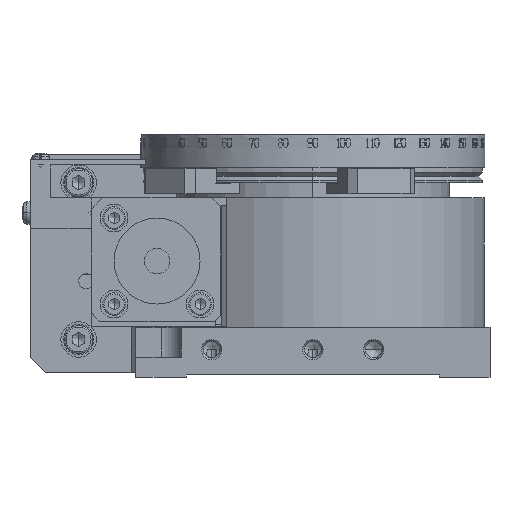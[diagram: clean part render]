
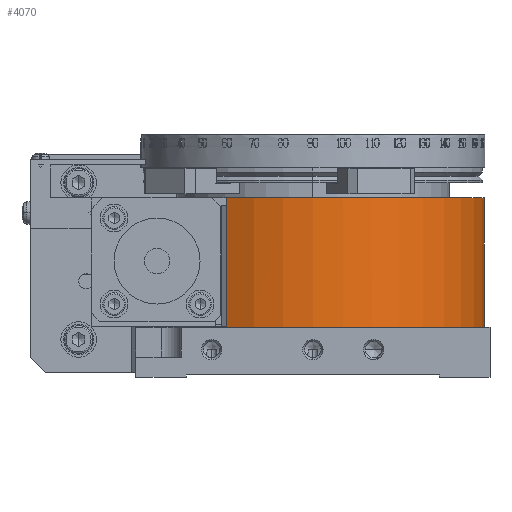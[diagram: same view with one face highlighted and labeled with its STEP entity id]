
A CAD part, left-side view. The second image highlights one B-rep face of the part: STEP entity #4070.
In plain terms, the highlighted cylindrical face has radius 33.9 mm (diameter 67.8 mm), a partial arc.
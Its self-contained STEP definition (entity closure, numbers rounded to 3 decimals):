
#4070=ADVANCED_FACE('',(#44689),#44688,.T.);
#44688=CYLINDRICAL_SURFACE('',#73302,33.9);
#44689=FACE_OUTER_BOUND('',#73303,.T.);
#73299=CARTESIAN_POINT('',(0.,0.,10.));
#73300=DIRECTION('',(0.,0.,1.));
#73301=DIRECTION('',(0.,1.,0.));
#73302=AXIS2_PLACEMENT_3D('',#73299,#73300,#73301);
#73303=EDGE_LOOP('',(#100053,#100054,#100055,#100056,#100057,#100058,#100059,#100060,#100061));
#100053=ORIENTED_EDGE('',*,*,#110901,.F.);
#100054=ORIENTED_EDGE('',*,*,#110906,.T.);
#100055=ORIENTED_EDGE('',*,*,#109363,.T.);
#100056=ORIENTED_EDGE('',*,*,#111707,.T.);
#100057=ORIENTED_EDGE('',*,*,#109375,.T.);
#100058=ORIENTED_EDGE('',*,*,#111722,.T.);
#100059=ORIENTED_EDGE('',*,*,#114367,.F.);
#100060=ORIENTED_EDGE('',*,*,#111033,.T.);
#100061=ORIENTED_EDGE('',*,*,#114368,.T.);
#109363=EDGE_CURVE('',#159520,#159521,#159522,.T.);
#109375=EDGE_CURVE('',#159605,#159598,#159606,.T.);
#110901=EDGE_CURVE('',#169850,#169857,#169858,.T.);
#110906=EDGE_CURVE('',#169850,#159520,#169888,.T.);
#111033=EDGE_CURVE('',#170738,#170737,#170745,.T.);
#111707=EDGE_CURVE('',#159521,#159605,#175257,.T.);
#111722=EDGE_CURVE('',#159598,#175351,#175358,.T.);
#114367=EDGE_CURVE('',#170738,#175351,#192835,.T.);
#114368=EDGE_CURVE('',#170737,#169857,#192841,.T.);
#159520=VERTEX_POINT('',#222854);
#159521=VERTEX_POINT('',#222855);
#159522=CIRCLE('',#222859,33.9);
#159598=VERTEX_POINT('',#222903);
#159605=VERTEX_POINT('',#222907);
#159606=CIRCLE('',#222911,33.9);
#169850=VERTEX_POINT('',#229152);
#169857=VERTEX_POINT('',#229156);
#169858=CIRCLE('',#229160,33.9);
#169888=LINE('',#229174,#229175);
#170737=VERTEX_POINT('',#229686);
#170738=VERTEX_POINT('',#229687);
#170745=CIRCLE('',#229695,33.9);
#175257=CIRCLE('',#232580,33.9);
#175351=VERTEX_POINT('',#232635);
#175358=CIRCLE('',#232643,33.9);
#192835=(BOUNDED_CURVE() B_SPLINE_CURVE(1,(#243305,#243306),.UNSPECIFIED.,.F.,.F.) B_SPLINE_CURVE_WITH_KNOTS((2,2),(0.083,0.087),.UNSPECIFIED.) CURVE() GEOMETRIC_REPRESENTATION_ITEM() RATIONAL_B_SPLINE_CURVE((1.,1.)) REPRESENTATION_ITEM('') );
#192841=(BOUNDED_CURVE() B_SPLINE_CURVE(1,(#243307,#243308),.UNSPECIFIED.,.F.,.F.) B_SPLINE_CURVE_WITH_KNOTS((2,2),(0.083,0.917),.UNSPECIFIED.) CURVE() GEOMETRIC_REPRESENTATION_ITEM() RATIONAL_B_SPLINE_CURVE((0.75,0.75)) REPRESENTATION_ITEM('') );
#222854=CARTESIAN_POINT('',(-29.329,17.,10.));
#222855=CARTESIAN_POINT('',(-18.,28.726,10.));
#222856=CARTESIAN_POINT('',(0.,0.,10.));
#222857=DIRECTION('',(0.,0.,-1.));
#222858=DIRECTION('',(0.,1.,0.));
#222859=AXIS2_PLACEMENT_3D('',#222856,#222857,#222858);
#222903=CARTESIAN_POINT('',(-7.5,33.06,10.));
#222907=CARTESIAN_POINT('',(-8.5,32.817,10.));
#222908=CARTESIAN_POINT('',(0.,0.,10.));
#222909=DIRECTION('',(0.,0.,-1.));
#222910=DIRECTION('',(0.,1.,0.));
#222911=AXIS2_PLACEMENT_3D('',#222908,#222909,#222910);
#229152=CARTESIAN_POINT('',(-29.329,17.,35.5));
#229156=CARTESIAN_POINT('',(0.,-33.9,35.5));
#229157=CARTESIAN_POINT('',(0.,0.,35.5));
#229158=DIRECTION('',(0.,0.,1.));
#229159=DIRECTION('',(0.,1.,0.));
#229160=AXIS2_PLACEMENT_3D('',#229157,#229158,#229159);
#229174=CARTESIAN_POINT('',(-29.329,17.,35.5));
#229175=VECTOR('',#229176,25.5);
#229176=DIRECTION('',(0.,0.,-1.));
#229686=CARTESIAN_POINT('',(0.,-33.9,9.9));
#229687=CARTESIAN_POINT('',(0.,33.9,9.9));
#229692=CARTESIAN_POINT('',(0.,0.,9.9));
#229693=DIRECTION('',(0.,0.,1.));
#229694=DIRECTION('',(0.,1.,0.));
#229695=AXIS2_PLACEMENT_3D('',#229692,#229693,#229694);
#232577=CARTESIAN_POINT('',(0.,0.,10.));
#232578=DIRECTION('',(0.,0.,-1.));
#232579=DIRECTION('',(0.,1.,0.));
#232580=AXIS2_PLACEMENT_3D('',#232577,#232578,#232579);
#232635=CARTESIAN_POINT('',(0.,33.9,10.));
#232640=CARTESIAN_POINT('',(0.,0.,10.));
#232641=DIRECTION('',(0.,0.,-1.));
#232642=DIRECTION('',(-0.221,0.975,0.));
#232643=AXIS2_PLACEMENT_3D('',#232640,#232641,#232642);
#243305=CARTESIAN_POINT('',(0.,33.9,9.9));
#243306=CARTESIAN_POINT('',(0.,33.9,10.));
#243307=CARTESIAN_POINT('',(0.,-33.9,9.9));
#243308=CARTESIAN_POINT('',(0.,-33.9,35.5));
